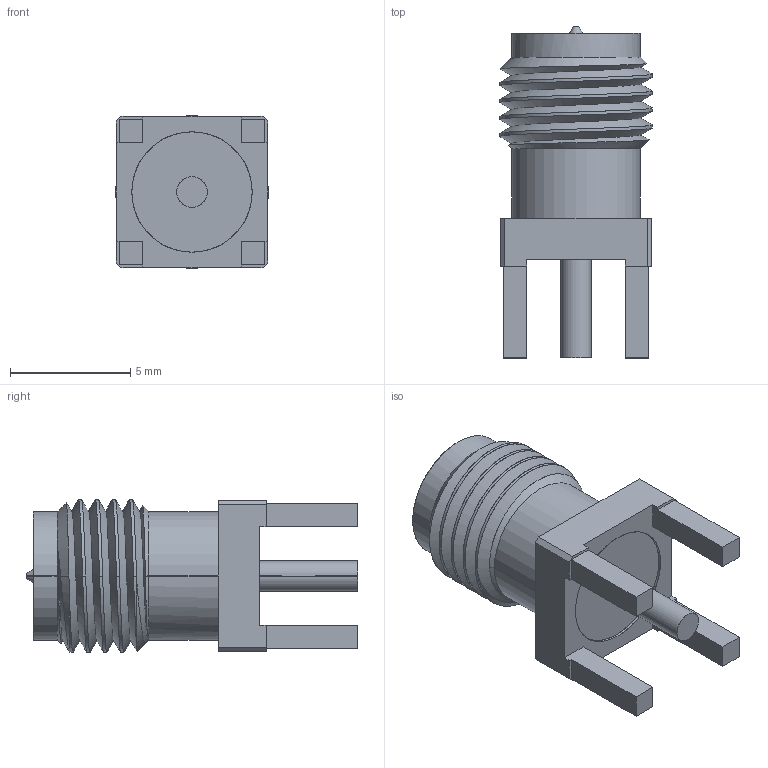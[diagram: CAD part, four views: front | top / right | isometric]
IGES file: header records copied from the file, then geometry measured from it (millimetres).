
Start section: SolidWorks IGES file using analytic representation for surfaces
Global section: file name: D:\ARIF\PRODUCT DESIGN\SMA RP Female Straight Connector with Solder Attachment for PCB.IGS; native system: SolidWorks 2022; preprocessor: SolidWorks 2022; author: arifw; date: 250428.114649; units: millimetre
Bounding box: 6.35 x 13.8 x 6.35 mm (x, y, z)
Surface area: 429.6 mm2 (no closed solid volume)
Topology: 0 solids, 0 shells, 74 faces, 972 edges, 972 vertices
Faces by surface type: bspline 42, revolution 32
